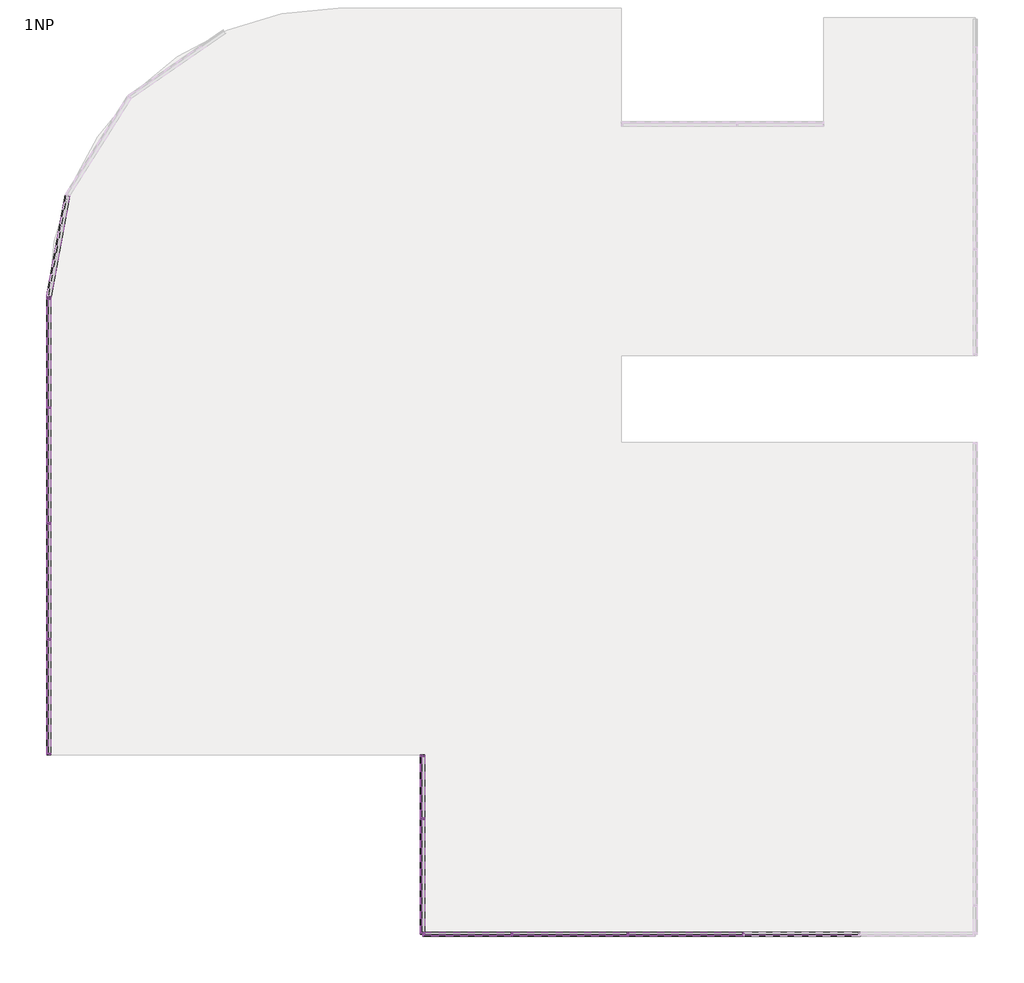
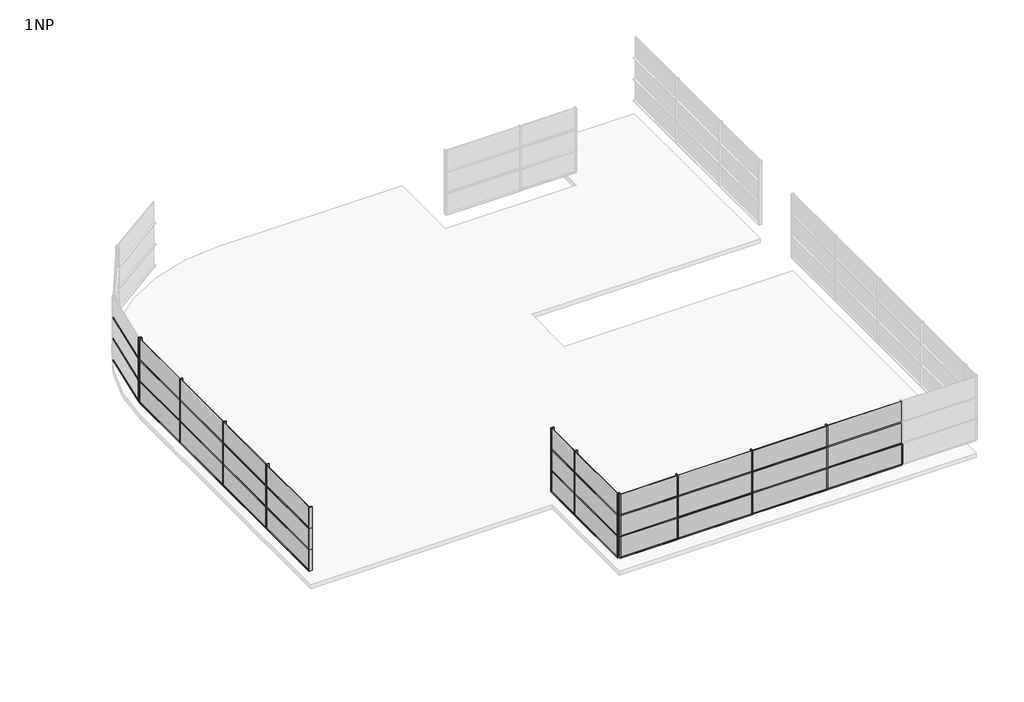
# One storey, part 1 of 3: 72 members, 30 plates.
"""IFC4 building model written with IfcOpenShell, lengths in millimetres."""

from ifc_helpers import new_model, si_unit, origin, place, context, project, spatial, transform, mapped, element, save
from components import rectangular_mullion_50_x_150mm_d99dc9be, rectangular_mullion_50_x_150mm_6588f46c, rectangular_mullion_50_x_150mm_a037c29c, rectangular_mullion_50_x_150mm_c2546fd4, rectangular_mullion_50_x_150mm_cd873b1a, rectangular_mullion_50_x_150mm_642c3999, rectangular_mullion_50_x_150mm_d9fe8572, rectangular_mullion_50_x_150mm_f56f8a9a, system_panel_glazed_8e9402eb, system_panel_glazed_89ac83a7, system_panel_glazed_2dc425e2, system_panel_glazed_da5fadb4, system_panel_glazed_3a708ec0

model = new_model("IFC4")

# Units and contexts
model_context = context("Model", 3, world=origin())
ifc_project = project(units=[si_unit("LENGTHUNIT", "METRE", prefix="MILLI")], contexts=[model_context])

# Site, building, storey
site = spatial("IfcSite", under=ifc_project)
building = spatial("IfcBuilding", under=site)
storey = spatial("IfcBuildingStorey", under=building, Name="1NP", Elevation=4000.0)

# Members
placement = place(None, origin())
rectangular_mullion_50_x_150mm_shape = rectangular_mullion_50_x_150mm_d99dc9be(model_context)
element("IfcMember", 1, ObjectType="Rectangular Mullion : 50 x 150mm", at=placement, inside=storey, context=model_context, shape_type="MappedRepresentation", body=[
    mapped(rectangular_mullion_50_x_150mm_shape, transform((9503.2660975, -23624.0160434, 6000.0), x_axis=(-1.0, 0.0, 0.0), y_axis=(0.0, -1.0, 0.0), z_axis=(0.0, 0.0, 1.0))),
])
element("IfcMember", 2, ObjectType="Rectangular Mullion : 50 x 150mm", at=placement, inside=storey, context=model_context, shape_type="MappedRepresentation", body=[
    mapped(rectangular_mullion_50_x_150mm_shape, transform((5503.2660975, -23624.0160434, 6000.0), x_axis=(-1.0, 0.0, 0.0), y_axis=(0.0, -1.0, 0.0), z_axis=(0.0, 0.0, 1.0))),
])
element("IfcMember", 3, ObjectType="Rectangular Mullion : 50 x 150mm", at=placement, inside=storey, context=model_context, shape_type="MappedRepresentation", body=[
    mapped(rectangular_mullion_50_x_150mm_shape, transform((5503.2660975, -23624.0160434, 7200.0), x_axis=(-1.0, 0.0, 0.0), y_axis=(0.0, -1.0, 0.0), z_axis=(0.0, 0.0, 1.0))),
])
element("IfcMember", 4, ObjectType="Rectangular Mullion : 50 x 150mm", at=placement, inside=storey, context=model_context, shape_type="MappedRepresentation", body=[
    mapped(rectangular_mullion_50_x_150mm_shape, transform((5503.2660975, -23624.0160434, 8400.0), x_axis=(-1.0, 0.0, 0.0), y_axis=(0.0, -1.0, 0.0), z_axis=(0.0, 0.0, 1.0))),
])
element("IfcMember", 5, ObjectType="Rectangular Mullion : 50 x 150mm", at=placement, inside=storey, context=model_context, shape_type="MappedRepresentation", body=[
    mapped(rectangular_mullion_50_x_150mm_shape, transform((1503.2660975, -23624.0160434, 6000.0), x_axis=(-1.0, 0.0, 0.0), y_axis=(0.0, -1.0, 0.0), z_axis=(0.0, 0.0, 1.0))),
])
element("IfcMember", 6, ObjectType="Rectangular Mullion : 50 x 150mm", at=placement, inside=storey, context=model_context, shape_type="MappedRepresentation", body=[
    mapped(rectangular_mullion_50_x_150mm_shape, transform((1503.2660975, -23624.0160434, 7200.0), x_axis=(-1.0, 0.0, 0.0), y_axis=(0.0, -1.0, 0.0), z_axis=(0.0, 0.0, 1.0))),
])
element("IfcMember", 7, ObjectType="Rectangular Mullion : 50 x 150mm", at=placement, inside=storey, context=model_context, shape_type="MappedRepresentation", body=[
    mapped(rectangular_mullion_50_x_150mm_shape, transform((1503.2660975, -23624.0160434, 8400.0), x_axis=(-1.0, 0.0, 0.0), y_axis=(0.0, -1.0, 0.0), z_axis=(0.0, 0.0, 1.0))),
])
element("IfcMember", 8, ObjectType="Rectangular Mullion : 50 x 150mm", at=placement, inside=storey, context=model_context, shape_type="MappedRepresentation", body=[
    mapped(rectangular_mullion_50_x_150mm_shape, transform((-2496.7339025, -23624.0160434, 6000.0), x_axis=(-1.0, 0.0, 0.0), y_axis=(0.0, -1.0, 0.0), z_axis=(0.0, 0.0, 1.0))),
])
element("IfcMember", 9, ObjectType="Rectangular Mullion : 50 x 150mm", at=placement, inside=storey, context=model_context, shape_type="MappedRepresentation", body=[
    mapped(rectangular_mullion_50_x_150mm_shape, transform((-2496.7339025, -23624.0160434, 7200.0), x_axis=(-1.0, 0.0, 0.0), y_axis=(0.0, -1.0, 0.0), z_axis=(0.0, 0.0, 1.0))),
])
element("IfcMember", 10, ObjectType="Rectangular Mullion : 50 x 150mm", at=placement, inside=storey, context=model_context, shape_type="MappedRepresentation", body=[
    mapped(rectangular_mullion_50_x_150mm_shape, transform((-2496.7339025, -23624.0160434, 8400.0), x_axis=(-1.0, 0.0, 0.0), y_axis=(0.0, -1.0, 0.0), z_axis=(0.0, 0.0, 1.0))),
])
element("IfcMember", 11, ObjectType="Rectangular Mullion : 50 x 150mm", at=placement, inside=storey, context=model_context, shape_type="MappedRepresentation", body=[
    mapped(rectangular_mullion_50_x_150mm_shape, transform((-5587.173406, -19624.0160434, 6000.0), x_axis=(0.0, 1.0, 0.0), y_axis=(-1.0, 0.0, 0.0), z_axis=(0.0, 0.0, 1.0))),
])
element("IfcMember", 12, ObjectType="Rectangular Mullion : 50 x 150mm", at=placement, inside=storey, context=model_context, shape_type="MappedRepresentation", body=[
    mapped(rectangular_mullion_50_x_150mm_shape, transform((-5587.173406, -19624.0160434, 7200.0), x_axis=(0.0, 1.0, 0.0), y_axis=(-1.0, 0.0, 0.0), z_axis=(0.0, 0.0, 1.0))),
])
element("IfcMember", 13, ObjectType="Rectangular Mullion : 50 x 150mm", at=placement, inside=storey, context=model_context, shape_type="MappedRepresentation", body=[
    mapped(rectangular_mullion_50_x_150mm_shape, transform((-5587.173406, -19624.0160434, 8400.0), x_axis=(0.0, 1.0, 0.0), y_axis=(-1.0, 0.0, 0.0), z_axis=(0.0, 0.0, 1.0))),
])
element("IfcMember", 14, ObjectType="Rectangular Mullion : 50 x 150mm", at=placement, inside=storey, context=model_context, shape_type="MappedRepresentation", body=[
    mapped(rectangular_mullion_50_x_150mm_shape, transform((-18496.7339025, -13423.5291324, 6000.0), x_axis=(0.0, 1.0, 0.0), y_axis=(-1.0, 0.0, 0.0), z_axis=(0.0, 0.0, 1.0))),
])
element("IfcMember", 15, ObjectType="Rectangular Mullion : 50 x 150mm", at=placement, inside=storey, context=model_context, shape_type="MappedRepresentation", body=[
    mapped(rectangular_mullion_50_x_150mm_shape, transform((-18496.7339025, -13423.5291324, 7200.0), x_axis=(0.0, 1.0, 0.0), y_axis=(-1.0, 0.0, 0.0), z_axis=(0.0, 0.0, 1.0))),
])
element("IfcMember", 16, ObjectType="Rectangular Mullion : 50 x 150mm", at=placement, inside=storey, context=model_context, shape_type="MappedRepresentation", body=[
    mapped(rectangular_mullion_50_x_150mm_shape, transform((-18496.7339025, -13423.5291324, 8400.0), x_axis=(0.0, 1.0, 0.0), y_axis=(-1.0, 0.0, 0.0), z_axis=(0.0, 0.0, 1.0))),
])
element("IfcMember", 17, ObjectType="Rectangular Mullion : 50 x 150mm", at=placement, inside=storey, context=model_context, shape_type="MappedRepresentation", body=[
    mapped(rectangular_mullion_50_x_150mm_shape, transform((-18496.7339025, -9423.5291324, 6000.0), x_axis=(0.0, 1.0, 0.0), y_axis=(-1.0, 0.0, 0.0), z_axis=(0.0, 0.0, 1.0))),
])
element("IfcMember", 18, ObjectType="Rectangular Mullion : 50 x 150mm", at=placement, inside=storey, context=model_context, shape_type="MappedRepresentation", body=[
    mapped(rectangular_mullion_50_x_150mm_shape, transform((-18496.7339025, -9423.5291324, 7200.0), x_axis=(0.0, 1.0, 0.0), y_axis=(-1.0, 0.0, 0.0), z_axis=(0.0, 0.0, 1.0))),
])
element("IfcMember", 19, ObjectType="Rectangular Mullion : 50 x 150mm", at=placement, inside=storey, context=model_context, shape_type="MappedRepresentation", body=[
    mapped(rectangular_mullion_50_x_150mm_shape, transform((-18496.7339025, -9423.5291324, 8400.0), x_axis=(0.0, 1.0, 0.0), y_axis=(-1.0, 0.0, 0.0), z_axis=(0.0, 0.0, 1.0))),
])
element("IfcMember", 20, ObjectType="Rectangular Mullion : 50 x 150mm", at=placement, inside=storey, context=model_context, shape_type="MappedRepresentation", body=[
    mapped(rectangular_mullion_50_x_150mm_shape, transform((-18496.7339025, -5423.5291324, 6000.0), x_axis=(0.0, 1.0, 0.0), y_axis=(-1.0, 0.0, 0.0), z_axis=(0.0, 0.0, 1.0))),
])
element("IfcMember", 21, ObjectType="Rectangular Mullion : 50 x 150mm", at=placement, inside=storey, context=model_context, shape_type="MappedRepresentation", body=[
    mapped(rectangular_mullion_50_x_150mm_shape, transform((-18496.7339025, -5423.5291324, 7200.0), x_axis=(0.0, 1.0, 0.0), y_axis=(-1.0, 0.0, 0.0), z_axis=(0.0, 0.0, 1.0))),
])
element("IfcMember", 22, ObjectType="Rectangular Mullion : 50 x 150mm", at=placement, inside=storey, context=model_context, shape_type="MappedRepresentation", body=[
    mapped(rectangular_mullion_50_x_150mm_shape, transform((-18496.7339025, -5423.5291324, 8400.0), x_axis=(0.0, 1.0, 0.0), y_axis=(-1.0, 0.0, 0.0), z_axis=(0.0, 0.0, 1.0))),
])
rectangular_mullion_50_x_150mm_2_shape = rectangular_mullion_50_x_150mm_6588f46c(model_context)
element("IfcMember", 23, ObjectType="Rectangular Mullion : 50 x 150mm", at=placement, inside=storey, context=model_context, shape_type="MappedRepresentation", body=[
    mapped(rectangular_mullion_50_x_150mm_2_shape, transform((-5587.173406, -23624.0160434, 6000.0), x_axis=(-1.0, 0.0, 0.0), y_axis=(0.0, -1.0, 0.0), z_axis=(0.0, 0.0, 1.0))),
])
element("IfcMember", 24, ObjectType="Rectangular Mullion : 50 x 150mm", at=placement, inside=storey, context=model_context, shape_type="MappedRepresentation", body=[
    mapped(rectangular_mullion_50_x_150mm_2_shape, transform((-5587.173406, -23624.0160434, 7200.0), x_axis=(-1.0, 0.0, 0.0), y_axis=(0.0, -1.0, 0.0), z_axis=(0.0, 0.0, 1.0))),
])
element("IfcMember", 25, ObjectType="Rectangular Mullion : 50 x 150mm", at=placement, inside=storey, context=model_context, shape_type="MappedRepresentation", body=[
    mapped(rectangular_mullion_50_x_150mm_2_shape, transform((-5587.173406, -23624.0160434, 8400.0), x_axis=(-1.0, 0.0, 0.0), y_axis=(0.0, -1.0, 0.0), z_axis=(0.0, 0.0, 1.0))),
])
element("IfcMember", 26, ObjectType="Rectangular Mullion : 50 x 150mm", at=placement, inside=storey, context=model_context, shape_type="MappedRepresentation", body=[
    mapped(rectangular_mullion_50_x_150mm_2_shape, transform((-5587.173406, -17423.5291324, 6000.0), x_axis=(0.0, 1.0, 0.0), y_axis=(-1.0, 0.0, 0.0), z_axis=(0.0, 0.0, 1.0))),
])
element("IfcMember", 27, ObjectType="Rectangular Mullion : 50 x 150mm", at=placement, inside=storey, context=model_context, shape_type="MappedRepresentation", body=[
    mapped(rectangular_mullion_50_x_150mm_2_shape, transform((-5587.173406, -17423.5291324, 7200.0), x_axis=(0.0, 1.0, 0.0), y_axis=(-1.0, 0.0, 0.0), z_axis=(0.0, 0.0, 1.0))),
])
element("IfcMember", 28, ObjectType="Rectangular Mullion : 50 x 150mm", at=placement, inside=storey, context=model_context, shape_type="MappedRepresentation", body=[
    mapped(rectangular_mullion_50_x_150mm_2_shape, transform((-5587.173406, -17423.5291324, 8400.0), x_axis=(0.0, 1.0, 0.0), y_axis=(-1.0, 0.0, 0.0), z_axis=(0.0, 0.0, 1.0))),
])
element("IfcMember", 29, ObjectType="Rectangular Mullion : 50 x 150mm", at=placement, inside=storey, context=model_context, shape_type="MappedRepresentation", body=[
    mapped(rectangular_mullion_50_x_150mm_2_shape, transform((-18496.7339025, -1624.0160434, 6000.0), x_axis=(0.0, 1.0, 0.0), y_axis=(-1.0, 0.0, 0.0), z_axis=(0.0, 0.0, 1.0))),
])
element("IfcMember", 30, ObjectType="Rectangular Mullion : 50 x 150mm", at=placement, inside=storey, context=model_context, shape_type="MappedRepresentation", body=[
    mapped(rectangular_mullion_50_x_150mm_2_shape, transform((-18496.7339025, -1624.0160434, 7200.0), x_axis=(0.0, 1.0, 0.0), y_axis=(-1.0, 0.0, 0.0), z_axis=(0.0, 0.0, 1.0))),
])
element("IfcMember", 31, ObjectType="Rectangular Mullion : 50 x 150mm", at=placement, inside=storey, context=model_context, shape_type="MappedRepresentation", body=[
    mapped(rectangular_mullion_50_x_150mm_2_shape, transform((-18496.7339025, -1624.0160434, 8400.0), x_axis=(0.0, 1.0, 0.0), y_axis=(-1.0, 0.0, 0.0), z_axis=(0.0, 0.0, 1.0))),
])
rectangular_mullion_50_x_150mm_3_shape = rectangular_mullion_50_x_150mm_a037c29c(model_context)
element("IfcMember", 32, ObjectType="Rectangular Mullion : 50 x 150mm", at=placement, inside=storey, context=model_context, shape_type="MappedRepresentation", body=[
    mapped(rectangular_mullion_50_x_150mm_3_shape, transform((9478.2660975, -23624.0160434, 4800.0), x_axis=(0.0, 0.0, 1.0), y_axis=(0.0, -1.0, 0.0), z_axis=(1.0, 0.0, 0.0))),
])
element("IfcMember", 33, ObjectType="Rectangular Mullion : 50 x 150mm", at=placement, inside=storey, context=model_context, shape_type="MappedRepresentation", body=[
    mapped(rectangular_mullion_50_x_150mm_3_shape, transform((5478.2660975, -23624.0160434, 4800.0), x_axis=(0.0, 0.0, 1.0), y_axis=(0.0, -1.0, 0.0), z_axis=(1.0, 0.0, 0.0))),
])
element("IfcMember", 34, ObjectType="Rectangular Mullion : 50 x 150mm", at=placement, inside=storey, context=model_context, shape_type="MappedRepresentation", body=[
    mapped(rectangular_mullion_50_x_150mm_3_shape, transform((1478.2660975, -23624.0160434, 4800.0), x_axis=(0.0, 0.0, 1.0), y_axis=(0.0, -1.0, 0.0), z_axis=(1.0, 0.0, 0.0))),
])
element("IfcMember", 35, ObjectType="Rectangular Mullion : 50 x 150mm", at=placement, inside=storey, context=model_context, shape_type="MappedRepresentation", body=[
    mapped(rectangular_mullion_50_x_150mm_3_shape, transform((9478.2660975, -23624.0160434, 6000.0), x_axis=(0.0, 0.0, 1.0), y_axis=(0.0, -1.0, 0.0), z_axis=(1.0, 0.0, 0.0))),
])
element("IfcMember", 36, ObjectType="Rectangular Mullion : 50 x 150mm", at=placement, inside=storey, context=model_context, shape_type="MappedRepresentation", body=[
    mapped(rectangular_mullion_50_x_150mm_3_shape, transform((5478.2660975, -23624.0160434, 6000.0), x_axis=(0.0, 0.0, 1.0), y_axis=(0.0, -1.0, 0.0), z_axis=(1.0, 0.0, 0.0))),
])
element("IfcMember", 37, ObjectType="Rectangular Mullion : 50 x 150mm", at=placement, inside=storey, context=model_context, shape_type="MappedRepresentation", body=[
    mapped(rectangular_mullion_50_x_150mm_3_shape, transform((1478.2660975, -23624.0160434, 6000.0), x_axis=(0.0, 0.0, 1.0), y_axis=(0.0, -1.0, 0.0), z_axis=(1.0, 0.0, 0.0))),
])
element("IfcMember", 38, ObjectType="Rectangular Mullion : 50 x 150mm", at=placement, inside=storey, context=model_context, shape_type="MappedRepresentation", body=[
    mapped(rectangular_mullion_50_x_150mm_3_shape, transform((5478.2660975, -23624.0160434, 7200.0), x_axis=(0.0, 0.0, 1.0), y_axis=(0.0, -1.0, 0.0), z_axis=(1.0, 0.0, 0.0))),
])
element("IfcMember", 39, ObjectType="Rectangular Mullion : 50 x 150mm", at=placement, inside=storey, context=model_context, shape_type="MappedRepresentation", body=[
    mapped(rectangular_mullion_50_x_150mm_3_shape, transform((1478.2660975, -23624.0160434, 7200.0), x_axis=(0.0, 0.0, 1.0), y_axis=(0.0, -1.0, 0.0), z_axis=(1.0, 0.0, 0.0))),
])
element("IfcMember", 40, ObjectType="Rectangular Mullion : 50 x 150mm", at=placement, inside=storey, context=model_context, shape_type="MappedRepresentation", body=[
    mapped(rectangular_mullion_50_x_150mm_3_shape, transform((-18496.7339025, -9398.5291324, 4800.0), x_axis=(0.0, 0.0, 1.0), y_axis=(-1.0, 0.0, 0.0), z_axis=(0.0, -1.0, 0.0))),
])
element("IfcMember", 41, ObjectType="Rectangular Mullion : 50 x 150mm", at=placement, inside=storey, context=model_context, shape_type="MappedRepresentation", body=[
    mapped(rectangular_mullion_50_x_150mm_3_shape, transform((-18496.7339025, -13398.5291324, 6000.0), x_axis=(0.0, 0.0, 1.0), y_axis=(-1.0, 0.0, 0.0), z_axis=(0.0, -1.0, 0.0))),
])
element("IfcMember", 42, ObjectType="Rectangular Mullion : 50 x 150mm", at=placement, inside=storey, context=model_context, shape_type="MappedRepresentation", body=[
    mapped(rectangular_mullion_50_x_150mm_3_shape, transform((-18496.7339025, -9398.5291324, 6000.0), x_axis=(0.0, 0.0, 1.0), y_axis=(-1.0, 0.0, 0.0), z_axis=(0.0, -1.0, 0.0))),
])
element("IfcMember", 43, ObjectType="Rectangular Mullion : 50 x 150mm", at=placement, inside=storey, context=model_context, shape_type="MappedRepresentation", body=[
    mapped(rectangular_mullion_50_x_150mm_3_shape, transform((-18496.7339025, -13398.5291324, 7200.0), x_axis=(0.0, 0.0, 1.0), y_axis=(-1.0, 0.0, 0.0), z_axis=(0.0, -1.0, 0.0))),
])
element("IfcMember", 44, ObjectType="Rectangular Mullion : 50 x 150mm", at=placement, inside=storey, context=model_context, shape_type="MappedRepresentation", body=[
    mapped(rectangular_mullion_50_x_150mm_3_shape, transform((-18496.7339025, -9398.5291324, 7200.0), x_axis=(0.0, 0.0, 1.0), y_axis=(-1.0, 0.0, 0.0), z_axis=(0.0, -1.0, 0.0))),
])
element("IfcMember", 45, ObjectType="Rectangular Mullion : 50 x 150mm", at=placement, inside=storey, context=model_context, shape_type="MappedRepresentation", body=[
    mapped(rectangular_mullion_50_x_150mm_3_shape, transform((-18496.7339025, -13398.5291324, 4800.0), x_axis=(0.0, 0.0, 1.0), y_axis=(-1.0, 0.0, 0.0), z_axis=(0.0, -1.0, 0.0))),
])
rectangular_mullion_50_x_150mm_4_shape = rectangular_mullion_50_x_150mm_c2546fd4(model_context)
element("IfcMember", 46, ObjectType="Rectangular Mullion : 50 x 150mm", at=placement, inside=storey, context=model_context, shape_type="MappedRepresentation", body=[
    mapped(rectangular_mullion_50_x_150mm_4_shape, transform((-5587.173406, -23574.0160434, 4800.0), x_axis=(0.0, 0.0, 1.0), y_axis=(-1.0, 0.0, 0.0), z_axis=(0.0, -1.0, 0.0))),
])
element("IfcMember", 47, ObjectType="Rectangular Mullion : 50 x 150mm", at=placement, inside=storey, context=model_context, shape_type="MappedRepresentation", body=[
    mapped(rectangular_mullion_50_x_150mm_4_shape, transform((-5587.173406, -23574.0160434, 6000.0), x_axis=(0.0, 0.0, 1.0), y_axis=(-1.0, 0.0, 0.0), z_axis=(0.0, -1.0, 0.0))),
])
element("IfcMember", 48, ObjectType="Rectangular Mullion : 50 x 150mm", at=placement, inside=storey, context=model_context, shape_type="MappedRepresentation", body=[
    mapped(rectangular_mullion_50_x_150mm_4_shape, transform((-5587.173406, -23574.0160434, 7200.0), x_axis=(0.0, 0.0, 1.0), y_axis=(-1.0, 0.0, 0.0), z_axis=(0.0, -1.0, 0.0))),
])
element("IfcMember", 49, ObjectType="Rectangular Mullion : 50 x 150mm", at=placement, inside=storey, context=model_context, shape_type="MappedRepresentation", body=[
    mapped(rectangular_mullion_50_x_150mm_4_shape, transform((-18496.7339025, -17373.5291324, 6000.0), x_axis=(0.0, 0.0, 1.0), y_axis=(-1.0, 0.0, 0.0), z_axis=(0.0, -1.0, 0.0))),
])
element("IfcMember", 50, ObjectType="Rectangular Mullion : 50 x 150mm", at=placement, inside=storey, context=model_context, shape_type="MappedRepresentation", body=[
    mapped(rectangular_mullion_50_x_150mm_4_shape, transform((-18496.7339025, -17373.5291324, 7200.0), x_axis=(0.0, 0.0, 1.0), y_axis=(-1.0, 0.0, 0.0), z_axis=(0.0, -1.0, 0.0))),
])
element("IfcMember", 51, ObjectType="Rectangular Mullion : 50 x 150mm", at=placement, inside=storey, context=model_context, shape_type="MappedRepresentation", body=[
    mapped(rectangular_mullion_50_x_150mm_4_shape, transform((-18496.7339025, -17373.5291324, 4800.0), x_axis=(0.0, 0.0, 1.0), y_axis=(-1.0, 0.0, 0.0), z_axis=(0.0, -1.0, 0.0))),
])
element("IfcMember", 52, ObjectType="Rectangular Mullion : 50 x 150mm", at=placement, inside=storey, context=model_context, shape_type="MappedRepresentation", body=[
    mapped(rectangular_mullion_50_x_150mm_2_shape, transform((-5587.173406, -23624.0160434, 4800.0), x_axis=(0.0, -1.0, 0.0), y_axis=(-1.0, 0.0, 0.0), z_axis=(0.0, 0.0, -1.0))),
])
element("IfcMember", 53, ObjectType="Rectangular Mullion : 50 x 150mm", at=placement, inside=storey, context=model_context, shape_type="MappedRepresentation", body=[
    mapped(rectangular_mullion_50_x_150mm_2_shape, transform((-5587.173406, -23624.0160434, 6000.0), x_axis=(0.0, -1.0, 0.0), y_axis=(-1.0, 0.0, 0.0), z_axis=(0.0, 0.0, -1.0))),
])
element("IfcMember", 54, ObjectType="Rectangular Mullion : 50 x 150mm", at=placement, inside=storey, context=model_context, shape_type="MappedRepresentation", body=[
    mapped(rectangular_mullion_50_x_150mm_2_shape, transform((-5587.173406, -23624.0160434, 7200.0), x_axis=(0.0, -1.0, 0.0), y_axis=(-1.0, 0.0, 0.0), z_axis=(0.0, 0.0, -1.0))),
])
element("IfcMember", 55, ObjectType="Rectangular Mullion : 50 x 150mm", at=placement, inside=storey, context=model_context, shape_type="MappedRepresentation", body=[
    mapped(rectangular_mullion_50_x_150mm_2_shape, transform((-18496.7339025, -1624.0160434, 4800.0), x_axis=(-0.18033241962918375, -0.9836057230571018, 0.0), y_axis=(-0.9836057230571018, 0.18033241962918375, 0.0), z_axis=(0.0, 0.0, -1.0))),
])
element("IfcMember", 56, ObjectType="Rectangular Mullion : 50 x 150mm", at=placement, inside=storey, context=model_context, shape_type="MappedRepresentation", body=[
    mapped(rectangular_mullion_50_x_150mm_2_shape, transform((-18496.7339025, -1624.0160434, 6000.0), x_axis=(-0.18033241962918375, -0.9836057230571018, 0.0), y_axis=(-0.9836057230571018, 0.18033241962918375, 0.0), z_axis=(0.0, 0.0, -1.0))),
])
element("IfcMember", 57, ObjectType="Rectangular Mullion : 50 x 150mm", at=placement, inside=storey, context=model_context, shape_type="MappedRepresentation", body=[
    mapped(rectangular_mullion_50_x_150mm_2_shape, transform((-18496.7339025, -1624.0160434, 7200.0), x_axis=(-0.18033241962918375, -0.9836057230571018, 0.0), y_axis=(-0.9836057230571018, 0.18033241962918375, 0.0), z_axis=(0.0, 0.0, -1.0))),
])
element("IfcMember", 58, ObjectType="Rectangular Mullion : 50 x 150mm", at=placement, inside=storey, context=model_context, shape_type="MappedRepresentation", body=[
    mapped(rectangular_mullion_50_x_150mm_2_shape, transform((-18496.7339025, -17423.5291324, 4800.0), x_axis=(0.0, -1.0, 0.0), y_axis=(-1.0, 0.0, 0.0), z_axis=(0.0, 0.0, -1.0))),
])
element("IfcMember", 59, ObjectType="Rectangular Mullion : 50 x 150mm", at=placement, inside=storey, context=model_context, shape_type="MappedRepresentation", body=[
    mapped(rectangular_mullion_50_x_150mm_2_shape, transform((-18496.7339025, -17423.5291324, 6000.0), x_axis=(0.0, -1.0, 0.0), y_axis=(-1.0, 0.0, 0.0), z_axis=(0.0, 0.0, -1.0))),
])
element("IfcMember", 60, ObjectType="Rectangular Mullion : 50 x 150mm", at=placement, inside=storey, context=model_context, shape_type="MappedRepresentation", body=[
    mapped(rectangular_mullion_50_x_150mm_2_shape, transform((-18496.7339025, -17423.5291324, 7200.0), x_axis=(0.0, -1.0, 0.0), y_axis=(-1.0, 0.0, 0.0), z_axis=(0.0, 0.0, -1.0))),
])
rectangular_mullion_50_x_150mm_5_shape = rectangular_mullion_50_x_150mm_cd873b1a(model_context)
element("IfcMember", 61, ObjectType="Rectangular Mullion : 50 x 150mm", at=placement, inside=storey, context=model_context, shape_type="MappedRepresentation", body=[
    mapped(rectangular_mullion_50_x_150mm_5_shape, transform((-2521.7339025, -23624.0160434, 4800.0), x_axis=(0.0, 0.0, 1.0), y_axis=(0.0, -1.0, 0.0), z_axis=(1.0, 0.0, 0.0))),
])
element("IfcMember", 62, ObjectType="Rectangular Mullion : 50 x 150mm", at=placement, inside=storey, context=model_context, shape_type="MappedRepresentation", body=[
    mapped(rectangular_mullion_50_x_150mm_5_shape, transform((-2521.7339025, -23624.0160434, 6000.0), x_axis=(0.0, 0.0, 1.0), y_axis=(0.0, -1.0, 0.0), z_axis=(1.0, 0.0, 0.0))),
])
element("IfcMember", 63, ObjectType="Rectangular Mullion : 50 x 150mm", at=placement, inside=storey, context=model_context, shape_type="MappedRepresentation", body=[
    mapped(rectangular_mullion_50_x_150mm_5_shape, transform((-2521.7339025, -23624.0160434, 7200.0), x_axis=(0.0, 0.0, 1.0), y_axis=(0.0, -1.0, 0.0), z_axis=(1.0, 0.0, 0.0))),
])
rectangular_mullion_50_x_150mm_6_shape = rectangular_mullion_50_x_150mm_642c3999(model_context)
element("IfcMember", 64, ObjectType="Rectangular Mullion : 50 x 150mm", at=placement, inside=storey, context=model_context, shape_type="MappedRepresentation", body=[
    mapped(rectangular_mullion_50_x_150mm_6_shape, transform((-5587.173406, -19599.0160434, 4800.0), x_axis=(0.0, 0.0, 1.0), y_axis=(-1.0, 0.0, 0.0), z_axis=(0.0, -1.0, 0.0))),
])
element("IfcMember", 65, ObjectType="Rectangular Mullion : 50 x 150mm", at=placement, inside=storey, context=model_context, shape_type="MappedRepresentation", body=[
    mapped(rectangular_mullion_50_x_150mm_6_shape, transform((-5587.173406, -19599.0160434, 6000.0), x_axis=(0.0, 0.0, 1.0), y_axis=(-1.0, 0.0, 0.0), z_axis=(0.0, -1.0, 0.0))),
])
element("IfcMember", 66, ObjectType="Rectangular Mullion : 50 x 150mm", at=placement, inside=storey, context=model_context, shape_type="MappedRepresentation", body=[
    mapped(rectangular_mullion_50_x_150mm_6_shape, transform((-5587.173406, -19599.0160434, 7200.0), x_axis=(0.0, 0.0, 1.0), y_axis=(-1.0, 0.0, 0.0), z_axis=(0.0, -1.0, 0.0))),
])
rectangular_mullion_50_x_150mm_7_shape = rectangular_mullion_50_x_150mm_d9fe8572(model_context)
element("IfcMember", 67, ObjectType="Rectangular Mullion : 50 x 150mm", at=placement, inside=storey, context=model_context, shape_type="MappedRepresentation", body=[
    mapped(rectangular_mullion_50_x_150mm_7_shape, transform((-18487.7172815, -1574.8357573, 4800.0), x_axis=(0.0, 0.0, 1.0), y_axis=(-0.9836057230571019, 0.18033241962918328, 0.0), z_axis=(-0.18033241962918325, -0.9836057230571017, 0.0))),
])
element("IfcMember", 68, ObjectType="Rectangular Mullion : 50 x 150mm", at=placement, inside=storey, context=model_context, shape_type="MappedRepresentation", body=[
    mapped(rectangular_mullion_50_x_150mm_7_shape, transform((-18487.7172815, -1574.8357573, 6000.0), x_axis=(0.0, 0.0, 1.0), y_axis=(-0.9836057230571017, 0.1803324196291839, 0.0), z_axis=(-0.1803324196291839, -0.9836057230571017, 0.0))),
])
element("IfcMember", 69, ObjectType="Rectangular Mullion : 50 x 150mm", at=placement, inside=storey, context=model_context, shape_type="MappedRepresentation", body=[
    mapped(rectangular_mullion_50_x_150mm_7_shape, transform((-18487.7172815, -1574.8357573, 7200.0), x_axis=(0.0, 0.0, 1.0), y_axis=(-0.9836057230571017, 0.1803324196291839, 0.0), z_axis=(-0.1803324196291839, -0.9836057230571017, 0.0))),
])
rectangular_mullion_50_x_150mm_8_shape = rectangular_mullion_50_x_150mm_f56f8a9a(model_context)
element("IfcMember", 70, ObjectType="Rectangular Mullion : 50 x 150mm", at=placement, inside=storey, context=model_context, shape_type="MappedRepresentation", body=[
    mapped(rectangular_mullion_50_x_150mm_8_shape, transform((-18496.7339025, -5398.5291324, 4800.0), x_axis=(0.0, 0.0, 1.0), y_axis=(-1.0, 0.0, 0.0), z_axis=(0.0, -1.0, 0.0))),
])
element("IfcMember", 71, ObjectType="Rectangular Mullion : 50 x 150mm", at=placement, inside=storey, context=model_context, shape_type="MappedRepresentation", body=[
    mapped(rectangular_mullion_50_x_150mm_8_shape, transform((-18496.7339025, -5398.5291324, 6000.0), x_axis=(0.0, 0.0, 1.0), y_axis=(-1.0, 0.0, 0.0), z_axis=(0.0, -1.0, 0.0))),
])
element("IfcMember", 72, ObjectType="Rectangular Mullion : 50 x 150mm", at=placement, inside=storey, context=model_context, shape_type="MappedRepresentation", body=[
    mapped(rectangular_mullion_50_x_150mm_8_shape, transform((-18496.7339025, -5398.5291324, 7200.0), x_axis=(0.0, 0.0, 1.0), y_axis=(-1.0, 0.0, 0.0), z_axis=(0.0, -1.0, 0.0))),
])

# Plates
system_panel_glazed_shape = system_panel_glazed_8e9402eb(model_context)
element("IfcPlate", 73, ObjectType="System Panel : Glazed", at=placement, inside=storey, context=model_context, shape_type="MappedRepresentation", body=[
    mapped(system_panel_glazed_shape, transform((-5587.173406, -21611.5160434, 4825.0), x_axis=(0.0, 1.0, 0.0), y_axis=(-1.0, 0.0, 0.0), z_axis=(0.0, 0.0, 1.0))),
])
element("IfcPlate", 74, ObjectType="System Panel : Glazed", at=placement, inside=storey, context=model_context, shape_type="MappedRepresentation", body=[
    mapped(system_panel_glazed_shape, transform((-5587.173406, -21611.5160434, 6025.0), x_axis=(0.0, 1.0, 0.0), y_axis=(-1.0, 0.0, 0.0), z_axis=(0.0, 0.0, 1.0))),
])
element("IfcPlate", 75, ObjectType="System Panel : Glazed", at=placement, inside=storey, context=model_context, shape_type="MappedRepresentation", body=[
    mapped(system_panel_glazed_shape, transform((-5587.173406, -21611.5160434, 7225.0), x_axis=(0.0, 1.0, 0.0), y_axis=(-1.0, 0.0, 0.0), z_axis=(0.0, 0.0, 1.0))),
])
element("IfcPlate", 76, ObjectType="System Panel : Glazed", at=placement, inside=storey, context=model_context, shape_type="MappedRepresentation", body=[
    mapped(system_panel_glazed_shape, transform((-18496.7339025, -15411.0291324, 4825.0), x_axis=(0.0, 1.0, 0.0), y_axis=(-1.0, 0.0, 0.0), z_axis=(0.0, 0.0, 1.0))),
])
element("IfcPlate", 77, ObjectType="System Panel : Glazed", at=placement, inside=storey, context=model_context, shape_type="MappedRepresentation", body=[
    mapped(system_panel_glazed_shape, transform((-18496.7339025, -15411.0291324, 6025.0), x_axis=(0.0, 1.0, 0.0), y_axis=(-1.0, 0.0, 0.0), z_axis=(0.0, 0.0, 1.0))),
])
element("IfcPlate", 78, ObjectType="System Panel : Glazed", at=placement, inside=storey, context=model_context, shape_type="MappedRepresentation", body=[
    mapped(system_panel_glazed_shape, transform((-18496.7339025, -15411.0291324, 7225.0), x_axis=(0.0, 1.0, 0.0), y_axis=(-1.0, 0.0, 0.0), z_axis=(0.0, 0.0, 1.0))),
])
system_panel_glazed_2_shape = system_panel_glazed_89ac83a7(model_context)
element("IfcPlate", 79, ObjectType="System Panel : Glazed", at=placement, inside=storey, context=model_context, shape_type="MappedRepresentation", body=[
    mapped(system_panel_glazed_2_shape, transform((7503.2660975, -23624.0160434, 4825.0), x_axis=(-1.0, 0.0, 0.0), y_axis=(0.0, -1.0, 0.0), z_axis=(0.0, 0.0, 1.0))),
])
element("IfcPlate", 80, ObjectType="System Panel : Glazed", at=placement, inside=storey, context=model_context, shape_type="MappedRepresentation", body=[
    mapped(system_panel_glazed_2_shape, transform((3503.2660975, -23624.0160434, 4825.0), x_axis=(-1.0, 0.0, 0.0), y_axis=(0.0, -1.0, 0.0), z_axis=(0.0, 0.0, 1.0))),
])
element("IfcPlate", 81, ObjectType="System Panel : Glazed", at=placement, inside=storey, context=model_context, shape_type="MappedRepresentation", body=[
    mapped(system_panel_glazed_2_shape, transform((-496.7339025, -23624.0160434, 4825.0), x_axis=(-1.0, 0.0, 0.0), y_axis=(0.0, -1.0, 0.0), z_axis=(0.0, 0.0, 1.0))),
])
element("IfcPlate", 82, ObjectType="System Panel : Glazed", at=placement, inside=storey, context=model_context, shape_type="MappedRepresentation", body=[
    mapped(system_panel_glazed_2_shape, transform((7503.2660975, -23624.0160434, 6025.0), x_axis=(-1.0, 0.0, 0.0), y_axis=(0.0, -1.0, 0.0), z_axis=(0.0, 0.0, 1.0))),
])
element("IfcPlate", 83, ObjectType="System Panel : Glazed", at=placement, inside=storey, context=model_context, shape_type="MappedRepresentation", body=[
    mapped(system_panel_glazed_2_shape, transform((3503.2660975, -23624.0160434, 6025.0), x_axis=(-1.0, 0.0, 0.0), y_axis=(0.0, -1.0, 0.0), z_axis=(0.0, 0.0, 1.0))),
])
element("IfcPlate", 84, ObjectType="System Panel : Glazed", at=placement, inside=storey, context=model_context, shape_type="MappedRepresentation", body=[
    mapped(system_panel_glazed_2_shape, transform((-496.7339025, -23624.0160434, 6025.0), x_axis=(-1.0, 0.0, 0.0), y_axis=(0.0, -1.0, 0.0), z_axis=(0.0, 0.0, 1.0))),
])
element("IfcPlate", 85, ObjectType="System Panel : Glazed", at=placement, inside=storey, context=model_context, shape_type="MappedRepresentation", body=[
    mapped(system_panel_glazed_2_shape, transform((7503.2660975, -23624.0160434, 7225.0), x_axis=(-1.0, 0.0, 0.0), y_axis=(0.0, -1.0, 0.0), z_axis=(0.0, 0.0, 1.0))),
])
element("IfcPlate", 86, ObjectType="System Panel : Glazed", at=placement, inside=storey, context=model_context, shape_type="MappedRepresentation", body=[
    mapped(system_panel_glazed_2_shape, transform((3503.2660975, -23624.0160434, 7225.0), x_axis=(-1.0, 0.0, 0.0), y_axis=(0.0, -1.0, 0.0), z_axis=(0.0, 0.0, 1.0))),
])
element("IfcPlate", 87, ObjectType="System Panel : Glazed", at=placement, inside=storey, context=model_context, shape_type="MappedRepresentation", body=[
    mapped(system_panel_glazed_2_shape, transform((-496.7339025, -23624.0160434, 7225.0), x_axis=(-1.0, 0.0, 0.0), y_axis=(0.0, -1.0, 0.0), z_axis=(0.0, 0.0, 1.0))),
])
element("IfcPlate", 88, ObjectType="System Panel : Glazed", at=placement, inside=storey, context=model_context, shape_type="MappedRepresentation", body=[
    mapped(system_panel_glazed_2_shape, transform((-18496.7339025, -11423.5291324, 4825.0), x_axis=(0.0, 1.0, 0.0), y_axis=(-1.0, 0.0, 0.0), z_axis=(0.0, 0.0, 1.0))),
])
element("IfcPlate", 89, ObjectType="System Panel : Glazed", at=placement, inside=storey, context=model_context, shape_type="MappedRepresentation", body=[
    mapped(system_panel_glazed_2_shape, transform((-18496.7339025, -7423.5291324, 4825.0), x_axis=(0.0, 1.0, 0.0), y_axis=(-1.0, 0.0, 0.0), z_axis=(0.0, 0.0, 1.0))),
])
element("IfcPlate", 90, ObjectType="System Panel : Glazed", at=placement, inside=storey, context=model_context, shape_type="MappedRepresentation", body=[
    mapped(system_panel_glazed_2_shape, transform((-18496.7339025, -11423.5291324, 6025.0), x_axis=(0.0, 1.0, 0.0), y_axis=(-1.0, 0.0, 0.0), z_axis=(0.0, 0.0, 1.0))),
])
element("IfcPlate", 91, ObjectType="System Panel : Glazed", at=placement, inside=storey, context=model_context, shape_type="MappedRepresentation", body=[
    mapped(system_panel_glazed_2_shape, transform((-18496.7339025, -7423.5291324, 6025.0), x_axis=(0.0, 1.0, 0.0), y_axis=(-1.0, 0.0, 0.0), z_axis=(0.0, 0.0, 1.0))),
])
element("IfcPlate", 92, ObjectType="System Panel : Glazed", at=placement, inside=storey, context=model_context, shape_type="MappedRepresentation", body=[
    mapped(system_panel_glazed_2_shape, transform((-18496.7339025, -11423.5291324, 7225.0), x_axis=(0.0, 1.0, 0.0), y_axis=(-1.0, 0.0, 0.0), z_axis=(0.0, 0.0, 1.0))),
])
element("IfcPlate", 93, ObjectType="System Panel : Glazed", at=placement, inside=storey, context=model_context, shape_type="MappedRepresentation", body=[
    mapped(system_panel_glazed_2_shape, transform((-18496.7339025, -7423.5291324, 7225.0), x_axis=(0.0, 1.0, 0.0), y_axis=(-1.0, 0.0, 0.0), z_axis=(0.0, 0.0, 1.0))),
])
system_panel_glazed_3_shape = system_panel_glazed_2dc425e2(model_context)
element("IfcPlate", 94, ObjectType="System Panel : Glazed", at=placement, inside=storey, context=model_context, shape_type="MappedRepresentation", body=[
    mapped(system_panel_glazed_3_shape, transform((-4029.4536543, -23624.0160434, 4825.0), x_axis=(-1.0, 0.0, 0.0), y_axis=(0.0, -1.0, 0.0), z_axis=(0.0, 0.0, 1.0))),
])
element("IfcPlate", 95, ObjectType="System Panel : Glazed", at=placement, inside=storey, context=model_context, shape_type="MappedRepresentation", body=[
    mapped(system_panel_glazed_3_shape, transform((-4029.4536543, -23624.0160434, 6025.0), x_axis=(-1.0, 0.0, 0.0), y_axis=(0.0, -1.0, 0.0), z_axis=(0.0, 0.0, 1.0))),
])
element("IfcPlate", 96, ObjectType="System Panel : Glazed", at=placement, inside=storey, context=model_context, shape_type="MappedRepresentation", body=[
    mapped(system_panel_glazed_3_shape, transform((-4029.4536543, -23624.0160434, 7225.0), x_axis=(-1.0, 0.0, 0.0), y_axis=(0.0, -1.0, 0.0), z_axis=(0.0, 0.0, 1.0))),
])
system_panel_glazed_4_shape = system_panel_glazed_da5fadb4(model_context)
element("IfcPlate", 97, ObjectType="System Panel : Glazed", at=placement, inside=storey, context=model_context, shape_type="MappedRepresentation", body=[
    mapped(system_panel_glazed_4_shape, transform((-5587.173406, -18536.2725879, 4825.0), x_axis=(0.0, 1.0, 0.0), y_axis=(-1.0, 0.0, 0.0), z_axis=(0.0, 0.0, 1.0))),
])
element("IfcPlate", 98, ObjectType="System Panel : Glazed", at=placement, inside=storey, context=model_context, shape_type="MappedRepresentation", body=[
    mapped(system_panel_glazed_4_shape, transform((-5587.173406, -18536.2725879, 6025.0), x_axis=(0.0, 1.0, 0.0), y_axis=(-1.0, 0.0, 0.0), z_axis=(0.0, 0.0, 1.0))),
])
element("IfcPlate", 99, ObjectType="System Panel : Glazed", at=placement, inside=storey, context=model_context, shape_type="MappedRepresentation", body=[
    mapped(system_panel_glazed_4_shape, transform((-5587.173406, -18536.2725879, 7225.0), x_axis=(0.0, 1.0, 0.0), y_axis=(-1.0, 0.0, 0.0), z_axis=(0.0, 0.0, 1.0))),
])
system_panel_glazed_5_shape = system_panel_glazed_3a708ec0(model_context)
element("IfcPlate", 100, ObjectType="System Panel : Glazed", at=placement, inside=storey, context=model_context, shape_type="MappedRepresentation", body=[
    mapped(system_panel_glazed_5_shape, transform((-18496.7339025, -3536.2725879, 4825.0), x_axis=(0.0, 1.0, 0.0), y_axis=(-1.0, 0.0, 0.0), z_axis=(0.0, 0.0, 1.0))),
])
element("IfcPlate", 101, ObjectType="System Panel : Glazed", at=placement, inside=storey, context=model_context, shape_type="MappedRepresentation", body=[
    mapped(system_panel_glazed_5_shape, transform((-18496.7339025, -3536.2725879, 6025.0), x_axis=(0.0, 1.0, 0.0), y_axis=(-1.0, 0.0, 0.0), z_axis=(0.0, 0.0, 1.0))),
])
element("IfcPlate", 102, ObjectType="System Panel : Glazed", at=placement, inside=storey, context=model_context, shape_type="MappedRepresentation", body=[
    mapped(system_panel_glazed_5_shape, transform((-18496.7339025, -3536.2725879, 7225.0), x_axis=(0.0, 1.0, 0.0), y_axis=(-1.0, 0.0, 0.0), z_axis=(0.0, 0.0, 1.0))),
])

save(model, "model.ifc")
